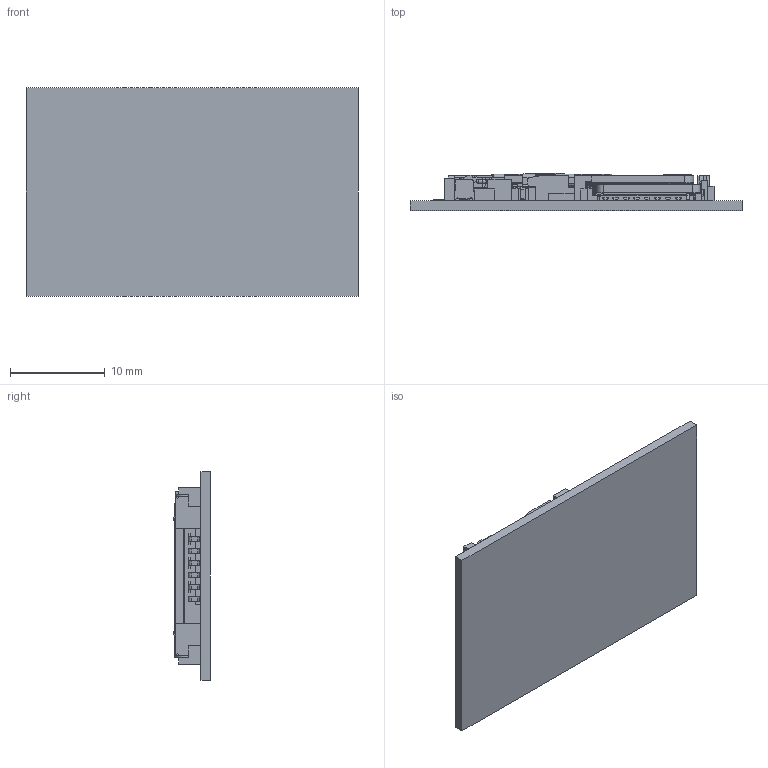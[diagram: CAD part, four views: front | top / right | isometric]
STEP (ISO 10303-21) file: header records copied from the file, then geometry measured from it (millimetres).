
FILE_DESCRIPTION((''),'2;1');
FILE_NAME('SIM-TFLASH-ACON_ASM','2008-06-30T',('GRA'),(''),'PRO/ENGINEER BY PARAMETRIC TECHNOLOGY CORPORATION, 2006170','PRO/ENGINEER BY PARAMETRIC TECHNOLOGY CORPORATION, 2006170','');
FILE_SCHEMA(('CONFIG_CONTROL_DESIGN'));
Length unit declared in the file: millimetre
Products named in the file (19): I-DSC20-A14XX0_AF0_1_PRT; T-DSC20-100X00_1_PRT; T-DSC20-100X00-C_AF0_ASM_1_ASM; T-DSC20-200X00-1_1_PRT; T-DSC20-200X00-2_1_PRT; T-DSC20-200X00-C_AF0_ASM_1_ASM; DSC20-14XXX1X_AF0_ASM_1_ASM; SIM-CARD_1_PRT; MICROSD-CARD_1_PRT; S-DSC20-114XX0_1_PRT; T-DSC20-400X00_1_PRT; T-DSC20-500X00_2_PRT; S-DSC20-214XX0_1_PRT; T-DSC20-300X00_1_PRT; DSC20-PCB_1_PRT; T-DSC20-900X00_1_PRT; T-DSC20-800X00_1_PRT; DSC20-14XXX00_ASM_3_ASM; SIM-TFLASH-ACON_ASM
Assembly tree (31 placements, depth 5):
  SIM-TFLASH-ACON_ASM
    DSC20-14XXX00_ASM_3_ASM
      DSC20-14XXX1X_AF0_ASM_1_ASM
        I-DSC20-A14XX0_AF0_1_PRT
        T-DSC20-100X00-C_AF0_ASM_1_ASM
          T-DSC20-100X00_1_PRT  x8
        T-DSC20-200X00-C_AF0_ASM_1_ASM
          T-DSC20-200X00-1_1_PRT  x3
          T-DSC20-200X00-2_1_PRT  x3
      SIM-CARD_1_PRT
      MICROSD-CARD_1_PRT
      S-DSC20-114XX0_1_PRT
      T-DSC20-400X00_1_PRT
      T-DSC20-500X00_2_PRT
      S-DSC20-214XX0_1_PRT
      T-DSC20-300X00_1_PRT
      DSC20-PCB_1_PRT
      T-DSC20-900X00_1_PRT  x2
      T-DSC20-800X00_1_PRT  x2
Bounding box: 35 x 3.9 x 22 mm (x, y, z)
Volume: 1616.5 mm3; surface area: 5211.9 mm2
Topology: 27 solids, 27 shells, 4024 faces, 11092 edges, 7204 vertices
Faces by surface type: plane 3139, cylinder 666, bspline 102, torus 56, sphere 33, cone 26, extrusion 2
Entity records: 110153 total; most frequent: CARTESIAN_POINT 22323, ORIENTED_EDGE 18780, DIRECTION 17175, EDGE_CURVE 9390, VECTOR 8035, LINE 8033, VERTEX_POINT 6128, AXIS2_PLACEMENT_3D 4570
